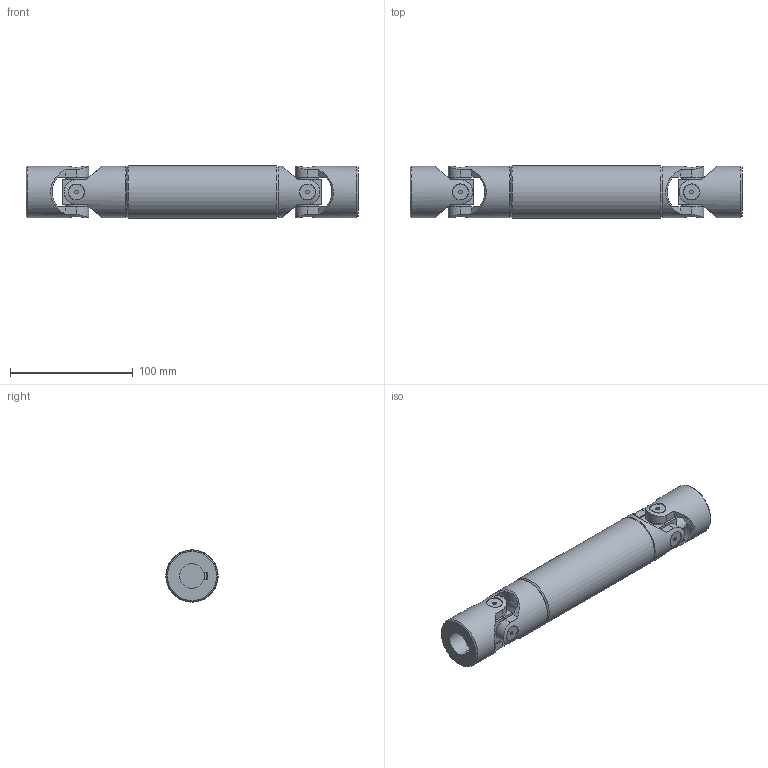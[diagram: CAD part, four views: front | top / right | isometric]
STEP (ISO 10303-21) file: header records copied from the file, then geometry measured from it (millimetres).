
FILE_DESCRIPTION(/* description */ (''),/* implementation_level */ '2;1');
FILE_NAME(/* name */ '\\SRV2016\Societa\Stefano\Disegni 3D\00Catalogo 3D\03Trasmissioni standard GA\3GA15\3GA15_SG0A2015.stp',/* time_stamp */ '2022-03-15T16:51:15+01:00',/* author */ ('acquisti'),/* organization */ (''),/* preprocessor_version */ 'ST-DEVELOPER v15.6',/* originating_system */ 'Autodesk Inventor 2015',/* authorisation */ '');
FILE_SCHEMA (('AUTOMOTIVE_DESIGN { 1 0 10303 214 3 1 1 }'));
Length unit declared in the file: millimetre
Products named in the file (5): 3GA15 LAI; 3GA15 LCI; 3G SFE; 3G MOC; 3GA15_SG0A2015
Assembly tree (6 placements, depth 2):
  3GA15_SG0A2015
    3GA15 LAI
    3GA15 LCI
    3G SFE  x2
    3G MOC  x2
Bounding box: 270 x 42.5 x 42.5 mm (x, y, z)
Volume: 267333.9 mm3; surface area: 77038.9 mm2
Topology: 6 solids, 6 shells, 228 faces, 561 edges, 369 vertices
Faces by surface type: plane 106, cylinder 93, cone 25, torus 4
Full cylindrical faces by diameter (mm): 3 x8, 18 x8, 20 x1, 22 x2, 35 x1, 42 x4, 42.5 x1
Entity records: 5785 total; most frequent: CARTESIAN_POINT 1675, DIRECTION 823, ORIENTED_EDGE 820, EDGE_CURVE 410, AXIS2_PLACEMENT_3D 335, VERTEX_POINT 286, EDGE_LOOP 224, FACE_OUTER_BOUND 176
